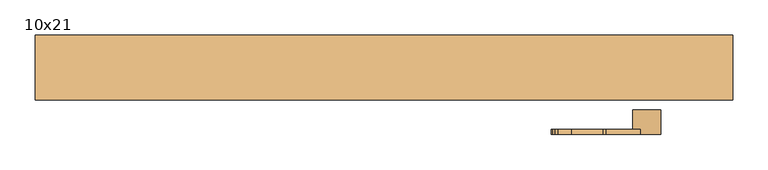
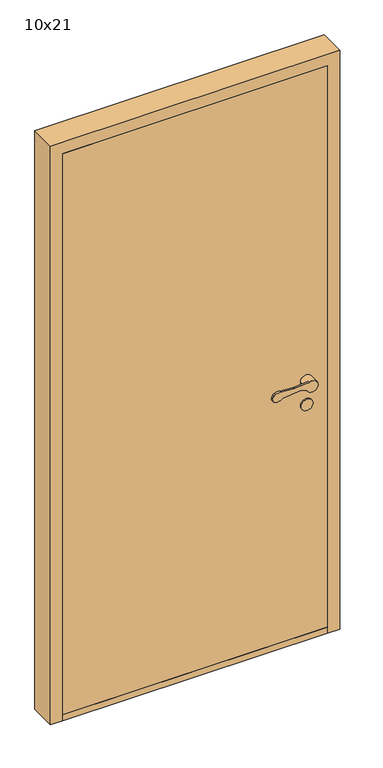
"""IFC4 building model written with IfcOpenShell, lengths in millimetres: door geometry, Innerdør Slett (Diplomat) : 10x21."""

from ifc_helpers import new_model, si_unit, point, frame, frame_2d, origin, origin_with_axes, place, context, project, spatial, polyline, circle_curve, trimmed, segment, composite_curve, outline, extrude, source, transform, mapped, element, save
from ifc_brep_helpers import plane_surface, cylinder_surface, revolved_surface, advanced_brep


def door_10x21_7d74f4fd(model_context):
    return source(origin(), model_context, "Body", "SolidModel", [
        advanced_brep(
        [(393.9611305, 34.0, 949.1175955), (388.8520664, 34.0, 949.9496913), (326.0476109, 34.0, 943.6260011), (296.721536, 34.0, 938.7393398), (291.8691983, 34.0, 951.8913379), (295.505009, 34.0, 959.9624074), (300.3175669, 34.0, 964.8810513), (318.8963175, 34.0, 967.2639242), (363.6202158, 34.0, 964.1804415), (368.6891233, 34.0, 964.26032), (417.2687793, 34.0, 969.1517356), (446.379633, 34.0, 951.3474568), (408.3841161, 34.0, 942.6204086), (368.6891233, 26.8915284, 964.26032), (363.6202158, 26.8915284, 964.1804415), (318.8963175, 26.8915284, 967.2639242), (300.3175669, 26.8915284, 964.8810513), (295.505009, 26.8915284, 959.9624074), (291.8691983, 26.8915284, 951.8913379), (296.721536, 26.8915284, 938.7393398), (326.0476109, 26.8915284, 943.6260011), (388.8520664, 26.8915284, 949.9496913), (393.9611305, 26.8915284, 949.1175955), (408.3841161, 26.8915284, 942.6204086), (406.379633, 26.8915284, 951.3474568), (417.2687793, 26.8915284, 969.1517356), (446.379633, -1.0, 951.3474568), (406.379633, -1.0, 951.3474568)],
        [
            (0, 1, circle_curve(frame((389.8538865, 34.0, 940.0), z_axis=(0.0, -1.0, 0.0), x_axis=(-0.9949691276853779, 0.0, -0.10018200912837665)), 10.0)),
            (1, 2),
            (2, 3, circle_curve(frame((307.8569644, 34.0, 962.352734), z_axis=(0.0, 1.0, 0.0), x_axis=(-0.9949691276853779, 0.0, -0.10018200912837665)), 26.1072815)),
            (3, 4, circle_curve(frame((300.9867937, 34.0, 947.7840939), z_axis=(0.0, 1.0, 0.0), x_axis=(-0.9949691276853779, 0.0, -0.10018200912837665)), 10.0)),
            (4, 5),
            (5, 6, circle_curve(frame((304.6226045, 34.0, 955.8551634), z_axis=(0.0, 1.0, 0.0), x_axis=(-0.9949691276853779, 0.0, -0.10018200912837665)), 10.0)),
            (6, 7, circle_curve(frame((313.2326797, 34.0, 937.8033877), z_axis=(0.0, 1.0, 0.0), x_axis=(-0.9949691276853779, 0.0, -0.10018200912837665)), 30.0)),
            (7, 8),
            (8, 9, circle_curve(frame((365.683663, 34.0, 994.1093938), z_axis=(0.0, -1.0, 0.0), x_axis=(-0.9949691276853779, 0.0, -0.10018200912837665)), 30.0)),
            (9, 10),
            (10, 11, circle_curve(frame((426.379633, 34.0, 951.3474568), z_axis=(0.0, 1.0, 0.0), x_axis=(-1.0, 0.0, 0.0)), 20.0)),
            (11, 12, circle_curve(frame((426.379633, 34.0, 951.3474568), z_axis=(0.0, 1.0, 0.0), x_axis=(-1.0, 0.0, 0.0)), 20.0)),
            (12, 0),
            (13, 14, circle_curve(frame((365.683663, 26.8915284, 994.1093938), z_axis=(0.0, 1.0, 0.0), x_axis=(-0.9949691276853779, 0.0, -0.10018200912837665)), 30.0)),
            (14, 15),
            (15, 16, circle_curve(frame((313.2326797, 26.8915284, 937.8033877), z_axis=(0.0, -1.0, 0.0), x_axis=(-0.9949691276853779, 0.0, -0.10018200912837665)), 30.0)),
            (16, 17, circle_curve(frame((304.6226045, 26.8915284, 955.8551634), z_axis=(0.0, -1.0, 0.0), x_axis=(-0.9949691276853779, 0.0, -0.10018200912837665)), 10.0)),
            (17, 18),
            (18, 19, circle_curve(frame((300.9867937, 26.8915284, 947.7840939), z_axis=(0.0, -1.0, 0.0), x_axis=(-0.9949691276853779, 0.0, -0.10018200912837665)), 10.0)),
            (19, 20, circle_curve(frame((307.8569644, 26.8915284, 962.352734), z_axis=(0.0, -1.0, 0.0), x_axis=(-0.9949691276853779, 0.0, -0.10018200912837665)), 26.1072815)),
            (20, 21),
            (21, 22, circle_curve(frame((389.8538865, 26.8915284, 940.0), z_axis=(0.0, 1.0, 0.0), x_axis=(-0.9949691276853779, 0.0, -0.10018200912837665)), 10.0)),
            (22, 23),
            (23, 24, circle_curve(frame((426.379633, 26.8915284, 951.3474568), z_axis=(0.0, 1.0, 0.0), x_axis=(-1.0, 0.0, 0.0)), 20.0)),
            (24, 25, circle_curve(frame((426.379633, 26.8915284, 951.3474568), z_axis=(0.0, 1.0, 0.0), x_axis=(-1.0, 0.0, 0.0)), 20.0)),
            (25, 13),
            (9, 13),
            (25, 10),
            (22, 0),
            (12, 23),
            (21, 1),
            (20, 2),
            (19, 3),
            (18, 4),
            (17, 5),
            (16, 6),
            (15, 7),
            (14, 8),
            (26, 27, circle_curve(frame((426.379633, -1.0, 951.3474568), z_axis=(0.0, -1.0, 0.0), x_axis=(-1.0, 0.0, 0.0)), 20.0)),
            (27, 26, circle_curve(frame((426.379633, -1.0, 951.3474568), z_axis=(0.0, -1.0, 0.0), x_axis=(-1.0, 0.0, 0.0)), 20.0)),
            (27, 24),
            (11, 26),
        ],
        [
            plane_surface(frame((417.6960588, 34.0, 969.1947577), z_axis=(0.0, 1.0000000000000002, 0.0), x_axis=(0.9949691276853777, 0.0, 0.10018200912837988))),
            plane_surface(frame((417.6960588, 26.8915284, 969.1947577), z_axis=(0.0, -1.0000000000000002, 0.0), x_axis=(-0.9949691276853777, 0.0, -0.10018200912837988))),
            plane_surface(frame((368.6891233, 34.0, 964.26032), z_axis=(-0.10018200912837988, 0.0, 0.9949691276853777), x_axis=(0.0, -1.0, 0.0))),
            plane_surface(frame((426.9687366, 34.0, 934.2485115), z_axis=(-0.41072439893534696, 0.0, -0.91175954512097), x_axis=(0.0, -1.0, 0.0))),
            revolved_surface(polyline([(379.9041952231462, 26.8915284, 938.9981799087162), (379.9041952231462, 34.0, 938.9981799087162)]), (389.8538865, 26.8915284, 940.0), (0.0, -1.0, 0.0)),
            plane_surface(frame((388.8520664, 34.0, 949.9496913), z_axis=(0.10018200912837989, 0.0, -0.9949691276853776), x_axis=(0.0, -1.0, 0.0))),
            cylinder_surface(frame((307.8569644, 26.8915284, 962.352734), z_axis=(0.0, 1.0, 0.0), x_axis=(-0.9949691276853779, 0.0, -0.10018200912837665)), 26.1072815),
            cylinder_surface(frame((300.9867937, 26.8915284, 947.7840939), z_axis=(0.0, 1.0, 0.0), x_axis=(-0.9949691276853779, 0.0, -0.10018200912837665)), 10.0),
            plane_surface(frame((291.8691983, 34.0, 951.8913379), z_axis=(-0.9117595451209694, 0.0, 0.41072439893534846), x_axis=(0.0, -1.0, 0.0))),
            cylinder_surface(frame((304.6226045, 26.8915284, 955.8551634), z_axis=(0.0, 1.0, 0.0), x_axis=(-0.9949691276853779, 0.0, -0.10018200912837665)), 10.0),
            cylinder_surface(frame((313.2326797, 26.8915284, 937.8033877), z_axis=(0.0, 1.0, 0.0), x_axis=(-0.9949691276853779, 0.0, -0.10018200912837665)), 30.0),
            plane_surface(frame((318.8963175, 34.0, 967.2639242), z_axis=(0.06878157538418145, 0.0, 0.9976317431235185), x_axis=(0.0, -1.0, 0.0))),
            revolved_surface(polyline([(335.8345891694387, 26.8915284, 991.1039335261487), (335.8345891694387, 34.0, 991.1039335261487)]), (365.683663, 26.8915284, 994.1093938), (0.0, -1.0, 0.0)),
            plane_surface(frame((406.379633, -1.0, 951.3474568), z_axis=(0.0, -1.0, 0.0), x_axis=(0.0, 0.0, -1.0))),
            cylinder_surface(frame((426.379633, -1.0, 951.3474568), z_axis=(0.0, 1.0, 0.0), x_axis=(-1.0, 0.0, 0.0)), 20.0),
        ],
        [
            (0, [[1, 2, 3, 4, 5, 6, 7, 8, 9, 10, 11, 12, 13]]),
            (1, [[14, 15, 16, 17, 18, 19, 20, 21, 22, 23, 24, 25, 26]]),
            (2, [[27, -26, 28, -10]]),
            (3, [[29, -13, 30, -23]]),
            (4, [[-1, -29, -22, 31]]),
            (5, [[-2, -31, -21, 32]]),
            (6, [[-3, -32, -20, 33]]),
            (7, [[-4, -33, -19, 34]]),
            (8, [[-5, -34, -18, 35]]),
            (9, [[-6, -35, -17, 36]]),
            (10, [[-7, -36, -16, 37]]),
            (11, [[-8, -37, -15, 38]]),
            (12, [[-9, -38, -14, -27]]),
            (13, [[39, 40]]),
            (14, [[-40, 41, -24, -30, -12, 42]]),
            (14, [[-39, -42, -11, -28, -25, -41]]),
        ],
    ),
        extrude(outline(composite_curve([segment(trimmed(circle_curve(frame_2d((866.3474568, 426.379633)), 20.0), [point((866.3474568, 446.379633))], [point((866.3474568, 406.379633))], False, "CARTESIAN"), True, "CONTINUOUS"), segment(trimmed(circle_curve(frame_2d((866.3474568, 426.379633)), 20.0), [point((866.3474568, 406.379633))], [point((866.3474568, 446.379633))], False, "CARTESIAN"), True, "CONTINUOUS")], self_intersect=False)), frame((0.0, -1.0, 0.0), z_axis=(0.0, 1.0, 0.0), x_axis=(0.0, 0.0, 1.0)), (0.0, 0.0, 1.0), 5.0),
        advanced_brep(
        [(393.9611305, -100.0, 949.1175955), (408.3841161, -100.0, 942.6204086), (446.379633, -100.0, 951.3474568), (417.2687793, -100.0, 969.1517356), (368.6891233, -100.0, 964.26032), (363.6202158, -100.0, 964.1804415), (318.8963175, -100.0, 967.2639242), (300.3175669, -100.0, 964.8810513), (295.505009, -100.0, 959.9624074), (291.8691983, -100.0, 951.8913379), (296.721536, -100.0, 938.7393398), (326.0476109, -100.0, 943.6260011), (388.8520664, -100.0, 949.9496913), (368.6891233, -92.8915284, 964.26032), (417.2687793, -92.8915284, 969.1517356), (406.379633, -92.8915284, 951.3474568), (408.3841161, -92.8915284, 942.6204086), (393.9611305, -92.8915284, 949.1175955), (388.8520664, -92.8915284, 949.9496913), (326.0476109, -92.8915284, 943.6260011), (296.721536, -92.8915284, 938.7393398), (291.8691983, -92.8915284, 951.8913379), (295.505009, -92.8915284, 959.9624074), (300.3175669, -92.8915284, 964.8810513), (318.8963175, -92.8915284, 967.2639242), (363.6202158, -92.8915284, 964.1804415), (446.379633, -65.0, 951.3474568), (406.379633, -65.0, 951.3474568)],
        [
            (0, 1),
            (1, 2, circle_curve(frame((426.379633, -100.0, 951.3474568), z_axis=(0.0, -1.0, 0.0), x_axis=(-1.0, 0.0, 0.0)), 20.0)),
            (2, 3, circle_curve(frame((426.379633, -100.0, 951.3474568), z_axis=(0.0, -1.0, 0.0), x_axis=(-1.0, 0.0, 0.0)), 20.0)),
            (3, 4),
            (4, 5, circle_curve(frame((365.683663, -100.0, 994.1093938), z_axis=(0.0, 1.0, 0.0), x_axis=(-0.9949691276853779, 0.0, -0.10018200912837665)), 30.0)),
            (5, 6),
            (6, 7, circle_curve(frame((313.2326797, -100.0, 937.8033877), z_axis=(0.0, -1.0, 0.0), x_axis=(-0.9949691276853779, 0.0, -0.10018200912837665)), 30.0)),
            (7, 8, circle_curve(frame((304.6226045, -100.0, 955.8551634), z_axis=(0.0, -1.0, 0.0), x_axis=(-0.9949691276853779, 0.0, -0.10018200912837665)), 10.0)),
            (8, 9),
            (9, 10, circle_curve(frame((300.9867937, -100.0, 947.7840939), z_axis=(0.0, -1.0, 0.0), x_axis=(-0.9949691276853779, 0.0, -0.10018200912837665)), 10.0)),
            (10, 11, circle_curve(frame((307.8569644, -100.0, 962.352734), z_axis=(0.0, -1.0, 0.0), x_axis=(-0.9949691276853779, 0.0, -0.10018200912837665)), 26.1072815)),
            (11, 12),
            (12, 0, circle_curve(frame((389.8538865, -100.0, 940.0), z_axis=(0.0, 1.0, 0.0), x_axis=(-0.9949691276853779, 0.0, -0.10018200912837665)), 10.0)),
            (13, 14),
            (14, 15, circle_curve(frame((426.379633, -92.8915284, 951.3474568), z_axis=(0.0, -1.0, 0.0), x_axis=(-1.0, 0.0, 0.0)), 20.0)),
            (15, 16, circle_curve(frame((426.379633, -92.8915284, 951.3474568), z_axis=(0.0, -1.0, 0.0), x_axis=(-1.0, 0.0, 0.0)), 20.0)),
            (16, 17),
            (17, 18, circle_curve(frame((389.8538865, -92.8915284, 940.0), z_axis=(0.0, -1.0, 0.0), x_axis=(-0.9949691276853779, 0.0, -0.10018200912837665)), 10.0)),
            (18, 19),
            (19, 20, circle_curve(frame((307.8569644, -92.8915284, 962.352734), z_axis=(0.0, 1.0, 0.0), x_axis=(-0.9949691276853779, 0.0, -0.10018200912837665)), 26.1072815)),
            (20, 21, circle_curve(frame((300.9867937, -92.8915284, 947.7840939), z_axis=(0.0, 1.0, 0.0), x_axis=(-0.9949691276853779, 0.0, -0.10018200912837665)), 10.0)),
            (21, 22),
            (22, 23, circle_curve(frame((304.6226045, -92.8915284, 955.8551634), z_axis=(0.0, 1.0, 0.0), x_axis=(-0.9949691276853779, 0.0, -0.10018200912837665)), 10.0)),
            (23, 24, circle_curve(frame((313.2326797, -92.8915284, 937.8033877), z_axis=(0.0, 1.0, 0.0), x_axis=(-0.9949691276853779, 0.0, -0.10018200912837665)), 30.0)),
            (24, 25),
            (25, 13, circle_curve(frame((365.683663, -92.8915284, 994.1093938), z_axis=(0.0, -1.0, 0.0), x_axis=(-0.9949691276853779, 0.0, -0.10018200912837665)), 30.0)),
            (3, 14),
            (13, 4),
            (16, 1),
            (0, 17),
            (12, 18),
            (11, 19),
            (10, 20),
            (9, 21),
            (8, 22),
            (7, 23),
            (6, 24),
            (5, 25),
            (26, 27, circle_curve(frame((426.379633, -65.0, 951.3474568), z_axis=(0.0, 1.0, 0.0), x_axis=(-1.0, 0.0, 0.0)), 20.0)),
            (27, 26, circle_curve(frame((426.379633, -65.0, 951.3474568), z_axis=(0.0, 1.0, 0.0), x_axis=(-1.0, 0.0, 0.0)), 20.0)),
            (26, 2),
            (15, 27),
        ],
        [
            plane_surface(frame((417.6960588, -100.0, 969.1947577), z_axis=(0.0, -1.0000000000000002, 0.0), x_axis=(0.9949691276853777, 0.0, 0.10018200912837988))),
            plane_surface(frame((417.6960588, -92.8915284, 969.1947577), z_axis=(0.0, 1.0000000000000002, 0.0), x_axis=(-0.9949691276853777, 0.0, -0.10018200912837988))),
            plane_surface(frame((368.6891233, -100.0, 964.26032), z_axis=(-0.10018200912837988, 0.0, 0.9949691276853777), x_axis=(0.0, 1.0, 0.0))),
            plane_surface(frame((426.9687366, -100.0, 934.2485115), z_axis=(-0.41072439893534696, 0.0, -0.91175954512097), x_axis=(0.0, 1.0, 0.0))),
            revolved_surface(polyline([(379.9041952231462, -92.8915284, 938.9981799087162), (379.9041952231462, -100.0, 938.9981799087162)]), (389.8538865, -92.8915284, 940.0), (0.0, 1.0, 0.0)),
            plane_surface(frame((388.8520664, -100.0, 949.9496913), z_axis=(0.10018200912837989, 0.0, -0.9949691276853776), x_axis=(0.0, 1.0, 0.0))),
            cylinder_surface(frame((307.8569644, -92.8915284, 962.352734), z_axis=(0.0, -1.0, 0.0), x_axis=(-0.9949691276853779, 0.0, -0.10018200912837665)), 26.1072815),
            cylinder_surface(frame((300.9867937, -92.8915284, 947.7840939), z_axis=(0.0, -1.0, 0.0), x_axis=(-0.9949691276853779, 0.0, -0.10018200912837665)), 10.0),
            plane_surface(frame((291.8691983, -100.0, 951.8913379), z_axis=(-0.9117595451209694, 0.0, 0.41072439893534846), x_axis=(0.0, 1.0, 0.0))),
            cylinder_surface(frame((304.6226045, -92.8915284, 955.8551634), z_axis=(0.0, -1.0, 0.0), x_axis=(-0.9949691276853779, 0.0, -0.10018200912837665)), 10.0),
            cylinder_surface(frame((313.2326797, -92.8915284, 937.8033877), z_axis=(0.0, -1.0, 0.0), x_axis=(-0.9949691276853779, 0.0, -0.10018200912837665)), 30.0),
            plane_surface(frame((318.8963175, -100.0, 967.2639242), z_axis=(0.06878157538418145, 0.0, 0.9976317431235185), x_axis=(0.0, 1.0, 0.0))),
            revolved_surface(polyline([(335.8345891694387, -92.8915284, 991.1039335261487), (335.8345891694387, -100.0, 991.1039335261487)]), (365.683663, -92.8915284, 994.1093938), (0.0, 1.0, 0.0)),
            plane_surface(frame((406.379633, -65.0, 951.3474568), z_axis=(0.0, 1.0, 0.0), x_axis=(0.0, 0.0, -1.0))),
            cylinder_surface(frame((426.379633, -65.0, 951.3474568), z_axis=(0.0, -1.0, 0.0), x_axis=(-1.0, 0.0, 0.0)), 20.0),
        ],
        [
            (0, [[1, 2, 3, 4, 5, 6, 7, 8, 9, 10, 11, 12, 13]]),
            (1, [[14, 15, 16, 17, 18, 19, 20, 21, 22, 23, 24, 25, 26]]),
            (2, [[-4, 27, -14, 28]]),
            (3, [[-17, 29, -1, 30]]),
            (4, [[31, -18, -30, -13]]),
            (5, [[32, -19, -31, -12]]),
            (6, [[33, -20, -32, -11]]),
            (7, [[34, -21, -33, -10]]),
            (8, [[35, -22, -34, -9]]),
            (9, [[36, -23, -35, -8]]),
            (10, [[37, -24, -36, -7]]),
            (11, [[38, -25, -37, -6]]),
            (12, [[-28, -26, -38, -5]]),
            (13, [[39, 40]]),
            (14, [[41, -2, -29, -16, 42, -39]]),
            (14, [[-42, -15, -27, -3, -41, -40]]),
        ],
    ),
        extrude(outline(composite_curve([segment(trimmed(circle_curve(frame_2d((866.3474568, 426.379633)), 20.0), [point((866.3474568, 446.379633))], [point((866.3474568, 406.379633))], False, "CARTESIAN"), True, "CONTINUOUS"), segment(trimmed(circle_curve(frame_2d((866.3474568, 426.379633)), 20.0), [point((866.3474568, 406.379633))], [point((866.3474568, 446.379633))], False, "CARTESIAN"), True, "CONTINUOUS")], self_intersect=False)), frame((0.0, -70.0, 0.0), z_axis=(0.0, 1.0, 0.0), x_axis=(0.0, 0.0, 1.0)), (0.0, 0.0, 1.0), 5.0),
        extrude(outline(polyline([(506.379633, 41.0), (506.379633, -51.0), (-399.620367, -51.0), (-399.620367, 41.0), (506.379633, 41.0)])), origin_with_axes(), (0.0, 0.0, 1.0), 22.0),
        extrude(outline(polyline([(506.379633, -1.0), (506.379633, -51.0), (-399.620367, -51.0), (-399.620367, -1.0), (506.379633, -1.0)])), frame((0.0, 0.0, 22.0), z_axis=(0.0, 0.0, 1.0), x_axis=(1.0, 0.0, 0.0)), (0.0, 0.0, 1.0), 2031.0),
        extrude(outline(polyline([(0.0, -399.620367), (2053.0, -399.620367), (2053.0, 506.379633), (0.0, 506.379633), (0.0, 548.379633), (2095.0, 548.379633), (2095.0, -441.620367), (0.0, -441.620367), (0.0, -399.620367)])), frame((0.0, -51.0, 0.0), z_axis=(0.0, 1.0, 0.0), x_axis=(0.0, 0.0, 1.0)), (0.0, 0.0, 1.0), 92.0),
    ])


if __name__ == "__main__":
    model = new_model("IFC4")
    model_context = context("Model", 3, world=origin())
    ifc_project = project(units=[si_unit("LENGTHUNIT", "METRE", prefix="MILLI")], contexts=[model_context])
    site = spatial("IfcSite", under=ifc_project)
    building = spatial("IfcBuilding", under=site)
    placement = place(None, origin())
    door_10x21_shape = door_10x21_7d74f4fd(model_context)
    element("IfcDoor", 1, ObjectType="Innerdør Slett (Diplomat) : 10x21", at=placement, inside=building, context=model_context, shape_type="MappedRepresentation", body=[
        mapped(door_10x21_shape, transform((0.0, 0.0, 0.0), x_axis=(1.0, 0.0, 0.0), y_axis=(0.0, 1.0, 0.0), z_axis=(0.0, 0.0, 1.0))),
    ])
    save(model, "model.ifc")
